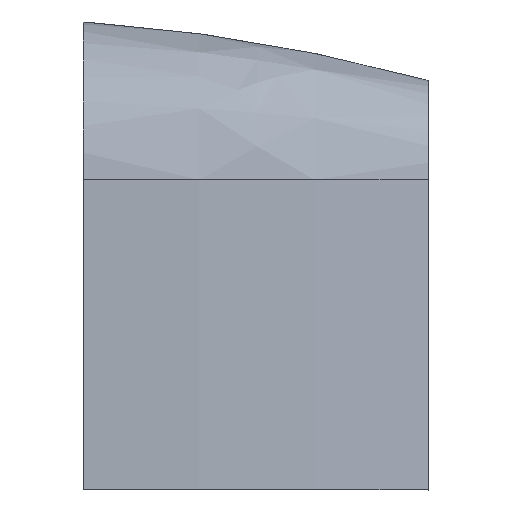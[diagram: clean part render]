
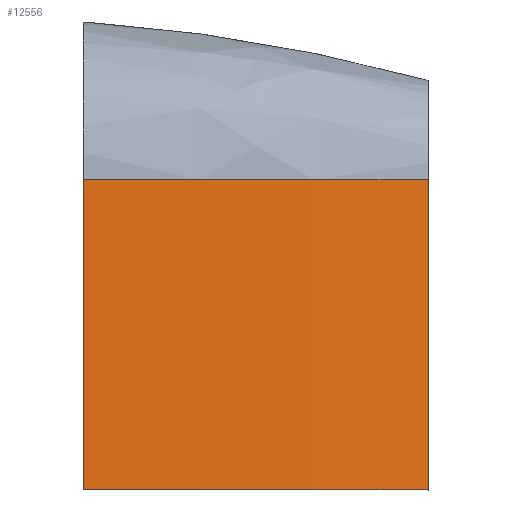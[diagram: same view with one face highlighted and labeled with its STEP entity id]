
A CAD part, left-side view. The second image highlights one B-rep face of the part: STEP entity #12556.
In plain terms, the highlighted cylindrical face has radius 3000 mm (diameter 6000 mm), a partial arc.
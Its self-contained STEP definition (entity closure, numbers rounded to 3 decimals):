
#924=CARTESIAN_POINT('',(2093.068,0.,
793.825));
#925=DIRECTION('',(0.,1.,0.));
#926=DIRECTION('',(-0.964,0.,-0.265));
#927=AXIS2_PLACEMENT_3D('',#924,#925,#926);
#1729=CARTESIAN_POINT('',(2093.068,-530.,793.825));
#1730=DIRECTION('',(0.,-1.,0.));
#1731=DIRECTION('',(-0.998,0.,-0.068));
#1732=AXIS2_PLACEMENT_3D('',#1729,#1730,#1731);
#1819=DIRECTION('',(0.,-1.,0.));
#1820=VECTOR('',#1819,530.);
#1821=CARTESIAN_POINT('',(-800.,0.,
0.));
#1822=LINE('',#1821,#1820);
#1823=DIRECTION('',(0.,1.,0.));
#1824=VECTOR('',#1823,530.);
#1825=CARTESIAN_POINT('',(-900.,-530.,590.));
#1826=LINE('',#1825,#1824);
#8545=CARTESIAN_POINT('',(-800.,0.,
0.));
#8546=VERTEX_POINT('',#8545);
#8700=CARTESIAN_POINT('',(-900.,0.,590.));
#8701=VERTEX_POINT('',#8700);
#8812=CARTESIAN_POINT('',(-900.,-530.,590.));
#8813=VERTEX_POINT('',#8812);
#8814=CARTESIAN_POINT('',(-800.,-530.,
0.));
#8815=VERTEX_POINT('',#8814);
#12544=CARTESIAN_POINT('',(2093.068,-265.,
793.825));
#12545=DIRECTION('',(0.,1.,0.));
#12546=DIRECTION('',(-0.999,0.,-0.034));
#12547=AXIS2_PLACEMENT_3D('',#12544,#12545,#12546);
#12548=CYLINDRICAL_SURFACE('',#12547,3000.);
#12550=ORIENTED_EDGE('',*,*,#12549,.T.);
#12551=ORIENTED_EDGE('',*,*,#12517,.F.);
#12552=ORIENTED_EDGE('',*,*,#12530,.T.);
#12553=ORIENTED_EDGE('',*,*,#10252,.F.);
#12554=EDGE_LOOP('',(#12550,#12551,#12552,#12553));
#12555=FACE_OUTER_BOUND('',#12554,.F.);
#12556=ADVANCED_FACE('',(#12555),#12548,.F.);
#928=CIRCLE('',#927,3000.);
#1733=CIRCLE('',#1732,3000.);
#10252=EDGE_CURVE('',#8546,#8701,#928,.T.);
#12517=EDGE_CURVE('',#8813,#8815,#1733,.T.);
#12530=EDGE_CURVE('',#8813,#8701,#1826,.T.);
#12549=EDGE_CURVE('',#8546,#8815,#1822,.T.);
